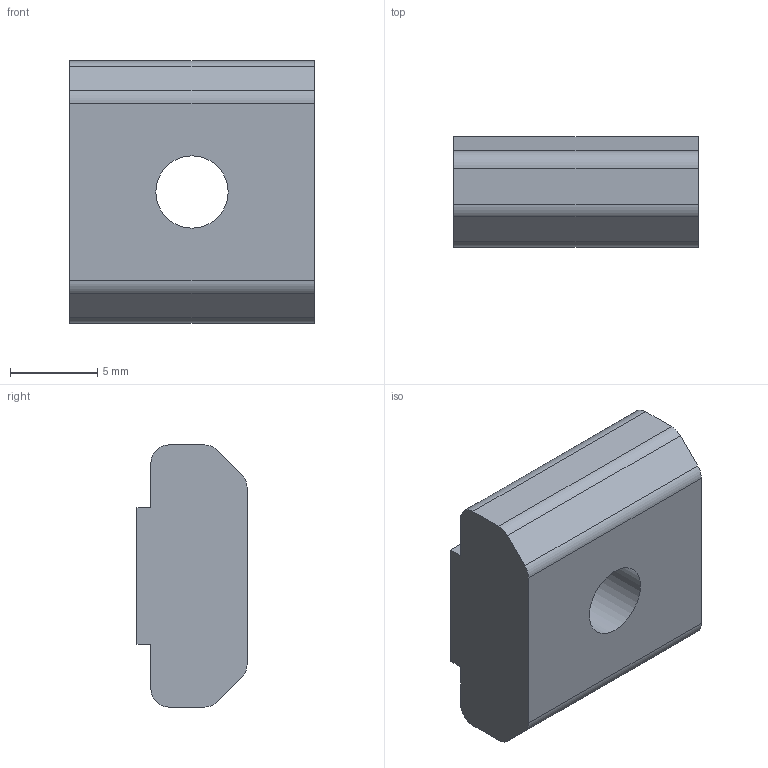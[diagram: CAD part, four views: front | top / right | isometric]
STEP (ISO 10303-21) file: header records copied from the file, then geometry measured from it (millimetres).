
FILE_DESCRIPTION (( 'STEP AP203' ), '1' );
FILE_NAME ('HNTT6-5.step', '2026-05-01T05:45:09', ( 'EC2' ), ( 'Amazon.com' ), 'SwSTEP 2.0', 'SolidWorks 2016', '' );
FILE_SCHEMA (( 'CONFIG_CONTROL_DESIGN' ));
Length unit declared in the file: millimetre
Products named in the file (1): HNTT6-5
Bounding box: 14 x 6.3 x 15 mm (x, y, z)
Volume: 1094.6 mm3; surface area: 772.6 mm2
Topology: 1 solids, 1 shells, 19 faces, 51 edges, 34 vertices
Faces by surface type: plane 12, cylinder 7
Full cylindrical faces by diameter (mm): 4.134 x1
Entity records: 675 total; most frequent: CARTESIAN_POINT 104, DIRECTION 104, ORIENTED_EDGE 100, EDGE_CURVE 50, LINE 36, VECTOR 36, VERTEX_POINT 34, AXIS2_PLACEMENT_3D 34
